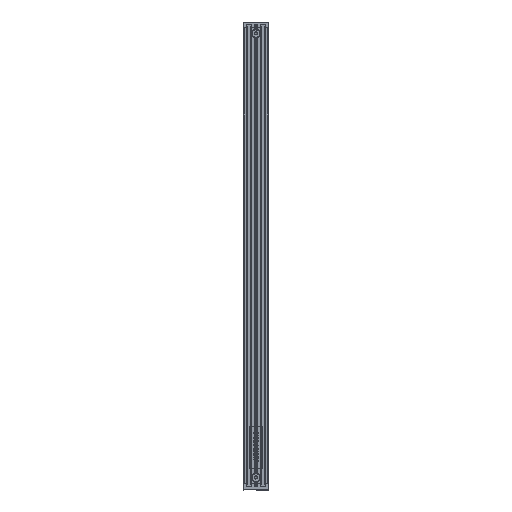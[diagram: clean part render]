
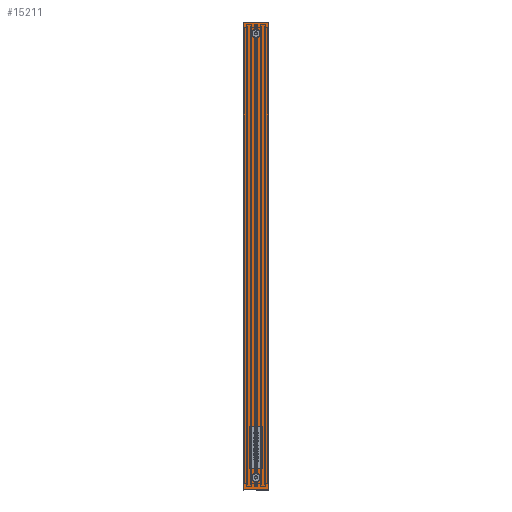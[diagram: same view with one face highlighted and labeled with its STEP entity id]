
A CAD part, top view. The second image highlights one B-rep face of the part: STEP entity #15211.
In plain terms, the highlighted planar face has unit normal (0, 0, 1).
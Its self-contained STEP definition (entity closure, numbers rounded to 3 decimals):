
#475=LINE('',#28102,#1921);
#478=LINE('',#28110,#1924);
#481=LINE('',#28118,#1927);
#484=LINE('',#28126,#1930);
#1473=LINE('',#32220,#2919);
#1474=LINE('',#32223,#2920);
#1475=LINE('',#32225,#2921);
#1476=LINE('',#32227,#2922);
#1921=VECTOR('',#23475,1000.);
#1924=VECTOR('',#23484,1000.);
#1927=VECTOR('',#23493,1000.);
#1930=VECTOR('',#23502,1000.);
#2919=VECTOR('',#25971,1000.);
#2920=VECTOR('',#25972,1000.);
#2921=VECTOR('',#25973,1000.);
#2922=VECTOR('',#25974,1000.);
#4024=PLANE('',#22731);
#6576=ORIENTED_EDGE('',*,*,#8711,.F.);
#6577=ORIENTED_EDGE('',*,*,#8709,.F.);
#6578=ORIENTED_EDGE('',*,*,#8723,.F.);
#6579=ORIENTED_EDGE('',*,*,#8721,.F.);
#6580=ORIENTED_EDGE('',*,*,#8719,.F.);
#6581=ORIENTED_EDGE('',*,*,#8717,.F.);
#6582=ORIENTED_EDGE('',*,*,#8715,.F.);
#6583=ORIENTED_EDGE('',*,*,#8713,.F.);
#6584=ORIENTED_EDGE('',*,*,#9223,.T.);
#6585=ORIENTED_EDGE('',*,*,#9312,.T.);
#6586=ORIENTED_EDGE('',*,*,#10168,.F.);
#6587=ORIENTED_EDGE('',*,*,#10169,.T.);
#6588=ORIENTED_EDGE('',*,*,#10170,.T.);
#6589=ORIENTED_EDGE('',*,*,#10171,.T.);
#8709=EDGE_CURVE('',#10932,#10933,#12274,.T.);
#8711=EDGE_CURVE('',#10933,#10934,#475,.T.);
#8713=EDGE_CURVE('',#10934,#10935,#12275,.T.);
#8715=EDGE_CURVE('',#10935,#10936,#478,.T.);
#8717=EDGE_CURVE('',#10936,#10937,#12276,.T.);
#8719=EDGE_CURVE('',#10937,#10938,#481,.T.);
#8721=EDGE_CURVE('',#10938,#10939,#12277,.T.);
#8723=EDGE_CURVE('',#10939,#10932,#484,.T.);
#9223=EDGE_CURVE('',#11262,#11262,#12383,.T.);
#9312=EDGE_CURVE('',#11345,#11345,#12402,.T.);
#10168=EDGE_CURVE('',#12004,#12005,#1473,.T.);
#10169=EDGE_CURVE('',#12004,#12006,#1474,.F.);
#10170=EDGE_CURVE('',#12006,#12007,#1475,.T.);
#10171=EDGE_CURVE('',#12007,#12005,#1476,.T.);
#10932=VERTEX_POINT('',#28097);
#10933=VERTEX_POINT('',#28099);
#10934=VERTEX_POINT('',#28103);
#10935=VERTEX_POINT('',#28107);
#10936=VERTEX_POINT('',#28111);
#10937=VERTEX_POINT('',#28115);
#10938=VERTEX_POINT('',#28119);
#10939=VERTEX_POINT('',#28123);
#11262=VERTEX_POINT('',#29992);
#11345=VERTEX_POINT('',#30301);
#12004=VERTEX_POINT('',#32221);
#12005=VERTEX_POINT('',#32222);
#12006=VERTEX_POINT('',#32224);
#12007=VERTEX_POINT('',#32226);
#12274=CIRCLE('',#21981,1.);
#12275=CIRCLE('',#21984,1.);
#12276=CIRCLE('',#21987,1.);
#12277=CIRCLE('',#21990,1.);
#12383=CIRCLE('',#22289,5.7);
#12402=CIRCLE('',#22343,5.7);
#12960=EDGE_LOOP('',(#6576,#6577,#6578,#6579,#6580,#6581,#6582,#6583));
#12961=EDGE_LOOP('',(#6584));
#12962=EDGE_LOOP('',(#6585));
#12963=EDGE_LOOP('',(#6586,#6587,#6588,#6589));
#13936=FACE_BOUND('',#12960,.T.);
#13937=FACE_BOUND('',#12961,.T.);
#13938=FACE_BOUND('',#12962,.T.);
#13939=FACE_BOUND('',#12963,.T.);
#15211=ADVANCED_FACE('',(#13936,#13937,#13938,#13939),#4024,.T.);
#21981=AXIS2_PLACEMENT_3D('',#28098,#23470,#23471);
#21984=AXIS2_PLACEMENT_3D('',#28106,#23479,#23480);
#21987=AXIS2_PLACEMENT_3D('',#28114,#23488,#23489);
#21990=AXIS2_PLACEMENT_3D('',#28122,#23497,#23498);
#22289=AXIS2_PLACEMENT_3D('',#29991,#24417,#24418);
#22343=AXIS2_PLACEMENT_3D('',#30300,#24545,#24546);
#22731=AXIS2_PLACEMENT_3D('',#32219,#25969,#25970);
#23470=DIRECTION('',(0.,0.,1.));
#23471=DIRECTION('',(0.,1.,0.));
#23475=DIRECTION('',(0.,1.,0.));
#23479=DIRECTION('',(0.,0.,1.));
#23480=DIRECTION('',(0.,-1.,0.));
#23484=DIRECTION('',(-1.,0.,0.));
#23488=DIRECTION('',(0.,0.,1.));
#23489=DIRECTION('',(0.,1.,0.));
#23493=DIRECTION('',(0.,-1.,0.));
#23497=DIRECTION('',(0.,0.,1.));
#23498=DIRECTION('',(0.,1.,0.));
#23502=DIRECTION('',(1.,0.,0.));
#24417=DIRECTION('',(0.,0.,-1.));
#24418=DIRECTION('',(0.,1.,0.));
#24545=DIRECTION('',(0.,0.,-1.));
#24546=DIRECTION('',(0.,-1.,0.));
#25969=DIRECTION('',(0.,0.,1.));
#25970=DIRECTION('',(1.,0.,0.));
#25971=DIRECTION('',(-1.,0.,0.));
#25972=DIRECTION('',(0.,-1.,0.));
#25973=DIRECTION('',(-1.,0.,0.));
#25974=DIRECTION('',(0.,-1.,0.));
#28097=CARTESIAN_POINT('',(9.,30.,650.));
#28098=CARTESIAN_POINT('',(9.,31.,650.));
#28099=CARTESIAN_POINT('',(10.,31.,650.));
#28102=CARTESIAN_POINT('',(10.,31.,650.));
#28103=CARTESIAN_POINT('',(10.,89.,650.));
#28106=CARTESIAN_POINT('',(9.,89.,650.));
#28107=CARTESIAN_POINT('',(9.,90.,650.));
#28110=CARTESIAN_POINT('',(9.,90.,650.));
#28111=CARTESIAN_POINT('',(-9.,90.,650.));
#28114=CARTESIAN_POINT('',(-9.,89.,650.));
#28115=CARTESIAN_POINT('',(-10.,89.,650.));
#28118=CARTESIAN_POINT('',(-10.,89.,650.));
#28119=CARTESIAN_POINT('',(-10.,31.,650.));
#28122=CARTESIAN_POINT('',(-9.,31.,650.));
#28123=CARTESIAN_POINT('',(-9.,30.,650.));
#28126=CARTESIAN_POINT('',(-9.,30.,650.));
#29991=CARTESIAN_POINT('',(0.,653.5,650.));
#29992=CARTESIAN_POINT('',(0.,659.2,650.));
#30300=CARTESIAN_POINT('',(0.,16.5,650.));
#30301=CARTESIAN_POINT('',(0.,10.8,650.));
#32219=CARTESIAN_POINT('',(18.5,670.,650.));
#32220=CARTESIAN_POINT('',(18.5,0.,650.));
#32221=CARTESIAN_POINT('',(18.3,0.,650.));
#32222=CARTESIAN_POINT('',(-18.3,0.,650.));
#32223=CARTESIAN_POINT('',(18.3,670.,650.));
#32224=CARTESIAN_POINT('',(18.3,670.,650.));
#32225=CARTESIAN_POINT('',(18.5,670.,650.));
#32226=CARTESIAN_POINT('',(-18.3,670.,650.));
#32227=CARTESIAN_POINT('',(-18.3,670.,650.));
